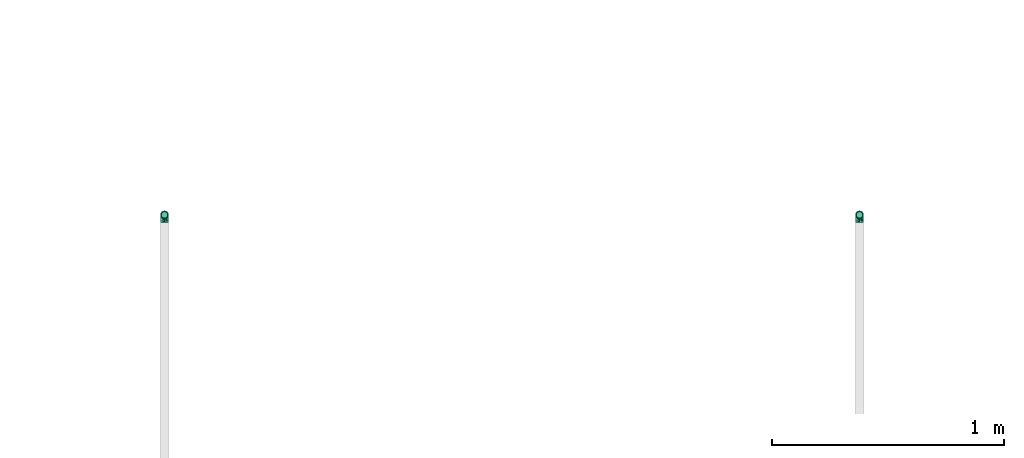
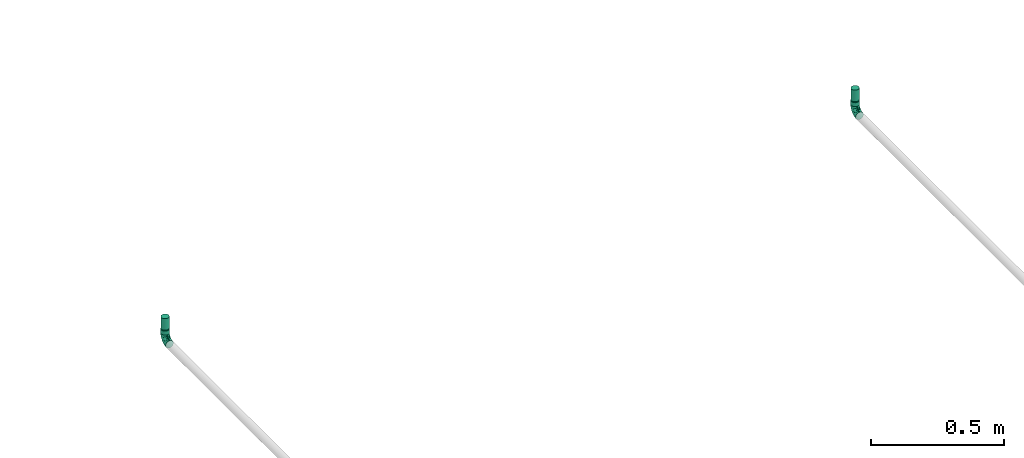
# One storey, part 33 of 45: 4 flow fittings, 2 flow segments, 2 flow terminals.
"""IFC2X3 building model written with IfcOpenShell, lengths in millimetres."""

from ifc_helpers import new_model, entity, si_unit, converted_unit, derived_unit, direction, frame, origin_with_axes, origin_2d_with_axis, place, context, subcontext, project, spatial, hollow_circle, extrude, open_shell, surface_model, source, transform, mapped, type_object, element, save


model = new_model("IFC2X3")

# Units and contexts
model_context = context("Model", 3, precision=0.01, world=frame((0.0, 4.29681676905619e-09, 0.0)), true_north=direction((4.01073788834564e-13, 1.0)))
plan_context = context("Plan", 3, precision=0.01, world=frame((0.0, 4.29681676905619e-09, 0.0)), true_north=direction((4.01073788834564e-13, 1.0)))
body_context = subcontext(model_context, "Body", "Model", "MODEL_VIEW")
ifc_project = project(units=[converted_unit("PLANEANGLEUNIT", "DEGREE", entity("IfcPositiveLengthMeasure", 0.0174532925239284), si_unit("PLANEANGLEUNIT", "RADIAN"), dimensions=[0, 0, 0, 0, 0, 0, 0]), si_unit("AREAUNIT", "SQUARE_METRE"), si_unit("LENGTHUNIT", "METRE", prefix="MILLI"), si_unit("MASSUNIT", "GRAM", prefix="KILO"), si_unit("POWERUNIT", "WATT"), si_unit("PRESSUREUNIT", "PASCAL", prefix="KILO"), si_unit("FORCEUNIT", "NEWTON", prefix="KILO"), si_unit("ELECTRICVOLTAGEUNIT", "VOLT"), si_unit("ELECTRICCURRENTUNIT", "AMPERE"), si_unit("THERMODYNAMICTEMPERATUREUNIT", "DEGREE_CELSIUS"), si_unit("TIMEUNIT", "SECOND"), si_unit("VOLUMEUNIT", "CUBIC_METRE"), derived_unit("LINEARVELOCITYUNIT", [(si_unit("LENGTHUNIT", "METRE"), 1), (si_unit("TIMEUNIT", "SECOND"), -1)]), derived_unit("VOLUMETRICFLOWRATEUNIT", [(si_unit("VOLUMEUNIT", "CUBIC_METRE"), 1), (si_unit("TIMEUNIT", "SECOND"), -1)]), derived_unit("THERMALTRANSMITTANCEUNIT", [(si_unit("POWERUNIT", "WATT"), 1), (si_unit("THERMODYNAMICTEMPERATUREUNIT", "KELVIN"), -1), (si_unit("AREAUNIT", "SQUARE_METRE"), -1)]), derived_unit("SOUNDPRESSUREUNIT", [(si_unit("PRESSUREUNIT", "PASCAL"), 1)])], contexts=[model_context, plan_context])

# Site, building, storey
site_placement = place(None, frame((0.0, -4.29681676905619e-09, 0.0), z_axis=(0.0, 0.0, 1.0), x_axis=(1.0, 0.0, 0.0)))
site = spatial("IfcSite", under=ifc_project, at=site_placement, CompositionType="ELEMENT")
building_placement = place(site_placement, frame((0.0, 4.29681676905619e-09, 0.0), z_axis=(0.0, 0.0, 1.0), x_axis=(1.0, 0.0, 0.0)))
building = spatial("IfcBuilding", under=site, at=building_placement, Name="mc-building", CompositionType="ELEMENT")
storey_placement = place(building_placement, frame((0.0, 0.0, 210200.0), z_axis=(0.0, 0.0, 1.0), x_axis=(1.0, 0.0, 0.0)))
storey = spatial("IfcBuildingStorey", under=building, at=storey_placement, Name="Nivå F - 0,7 m", CompositionType="ELEMENT", Elevation=210200.0)

# Flow fittings
pipe_fitting_type_1 = type_object("IfcPipeFittingType", Name="magi_pipe_fe_elbow_short_001", PredefinedType="BEND")
shared_shape_1 = source(origin_with_axes(), body_context, "Body", "SurfaceModel", [
    surface_model("IfcShellBasedSurfaceModel", [(-33.8, -11.9501, -11.9501), (-33.8, -14.63583, -8.45), (-33.8, -8.45, -14.63583), (-33.8, 0.0, -16.9), (-33.8, -4.37404, -16.32415), (-33.8, -16.32415, -4.37404), (-33.8, -16.9, 0.0), (-33.8, 11.9501, 11.9501), (-33.8, 14.63583, 8.45), (-33.8, 8.45, 14.63583), (-33.8, -11.9501, 11.9501), (-33.8, -8.45, 14.63583), (-33.8, -14.63583, 8.45), (-33.8, -16.32415, 4.37404), (-33.8, -4.37404, 16.32415), (-33.8, 0.0, 16.9), (-33.8, 16.9, 0.0), (-33.8, 16.32415, -4.37404), (-33.8, 16.32415, 4.37404), (-33.8, 4.37404, -16.32415), (-33.8, 8.45, -14.63583), (-33.8, 14.63583, -8.45), (-33.8, 11.9501, -11.9501), (-33.8, 4.37404, 16.32415), (-4.37404, 33.8, -16.32415), (16.9, 33.8, 0.0), (0.0, 33.8, -16.9), (-16.32415, 33.8, -4.37404), (-8.45, 33.8, -14.63583), (-14.63583, 33.8, -8.45), (-11.9501, 33.8, -11.9501), (16.32415, 33.8, 4.37404), (8.45, 33.8, -14.63583), (14.63583, 33.8, -8.45), (11.9501, 33.8, -11.9501), (4.37404, 33.8, -16.32415), (16.32415, 33.8, -4.37404), (-16.32415, 33.8, 4.37404), (-4.37404, 33.8, 16.32415), (-14.63583, 33.8, 8.45), (-8.45, 33.8, 14.63583), (-11.9501, 33.8, 11.9501), (14.63583, 33.8, 8.45), (8.45, 33.8, 14.63583), (11.9501, 33.8, 11.9501), (0.0, 33.8, 16.9), (4.37404, 33.8, 16.32415), (-16.9, 33.8, 0.0), (-24.79389, -13.12945, 9.48721), (-22.19287, -9.75018, 12.59315), (-24.09897, -14.97035, 0.0), (-14.93934, -10.76256, 8.5297), (-22.46095, -14.75051, 5.27077), (14.75051, 22.46094, 5.27077), (11.9251, 13.23888, 4.33236), (13.04069, 14.39795, 0.0), (7.71387, 13.68847, 11.55891), (9.75018, 22.19287, 12.59315), (4.10169, 13.0571, 14.04018), (-24.84007, -6.39063, 15.2048), (-25.81779, -2.23879, 16.61097), (-23.66549, 2.59054, 16.87119), (-26.50418, 14.06512, 11.08152), (-24.21253, 17.66365, 7.72657), (-29.58514, 15.86957, 7.00283), (-6.17382, -7.5455, 0.0), (-13.23888, -11.9251, 4.33236), (-14.39795, -13.04069, 0.0), (-17.81434, 18.87373, 11.97104), (-6.30846, 29.15138, 15.82987), (-2.31622, 25.28002, 16.85849), (-29.23923, 10.23435, 13.77053), (-1.45439, -2.85688, 7.61475), (-0.28326, 0.34872, 10.09509), (-5.74484, -4.04709, 10.4122), (-4.41137, 11.31918, 16.59407), (-8.39727, 3.10034, 15.7812), (-1.72649, 9.1306, 15.53089), (-17.39909, 24.75344, 7.64977), (-26.19233, 20.0512, 0.0), (-28.14518, 17.29657, 4.25857), (-26.05147, 6.6281, 15.96447), (-5.87354, 16.61944, 16.86968), (-12.51807, 12.51807, 16.48937), (-10.06312, 7.38516, 16.81295), (-3.01882, 3.01882, 13.81718), (-13.0571, -4.10169, 14.04018), (-16.82553, -0.15166, 16.38038), (10.76256, 14.93934, 8.5297), (13.12945, 24.79389, 9.48721), (6.39063, 24.84007, 15.2048), (2.23879, 25.81779, 16.61097), (-13.68847, -7.71387, 11.55891), (14.97035, 24.09897, 0.0), (-7.30894, 22.89991, 16.09489), (-10.67958, 26.17414, 14.008), (-12.78295, 18.26924, 15.06066), (-13.88562, 22.45231, 12.93244), (-18.04944, 15.16501, 14.04434), (-23.11658, 20.08178, 4.02986), (-21.84989, 21.84989, 0.0), (-18.55817, 25.48277, 3.93065), (-13.95142, 26.94732, 11.03289), (-18.57098, 7.23906, 16.59756), (-16.58335, 4.14122, 16.89279), (-17.96666, 11.46709, 15.63151), (-9.84453, 17.54304, 16.18938), (0.15166, 16.82553, 16.38038), (-23.27207, 11.47201, 14.23154), (3.84842, 5.86994, 10.70473), (-8.0212, -7.54413, 7.93275), (1.00345, -2.19508, 4.57414), (5.13203, 3.01004, 5.90201), (5.24161, 1.7543, 2.53265), (8.70457, 7.04947, 3.99182), (-20.0512, 26.19233, 0.0), (8.4852, 8.76699, 7.09296), (-4.55488, -6.72064, 4.90681), (2.05031, -2.05031, 0.0), (7.5455, 6.17382, 0.0), (-26.75399, 2.1369, -16.845), (-14.61995, 24.73803, -11.27736), (-28.45274, -13.45335, -9.81895), (-26.00469, 6.63555, -15.96645), (-23.06726, 20.04573, -4.26202), (-13.80647, -4.26506, -14.17873), (-14.67501, -0.21081, -16.07388), (-6.7902, -0.2828, -13.8478), (-24.53586, 11.08096, -14.13417), (-26.72048, 14.00837, -11.05776), (10.0967, 24.44989, -12.75976), (5.83237, 21.40218, -15.03047), (6.66249, 28.54238, -15.38093), (-20.38182, 15.48705, -12.74596), (12.53268, 21.23441, -9.15363), (12.54494, 15.67504, -5.54878), (9.7522, 12.89279, -8.66343), (-15.65186, 19.64213, -13.01327), (-12.03528, 20.66498, -14.67665), (-15.61907, 15.61906, -14.83879), (-25.56551, -15.26206, 0.0), (-24.65452, -15.12934, -5.50955), (13.45335, 28.45274, -9.81895), (15.12934, 24.65452, -5.50955), (-7.35442, -8.31014, -5.65563), (-15.67504, -12.54494, -5.54878), (-24.44989, -10.0967, -12.75976), (0.16522, 0.41303, -9.71728), (-5.70658, -5.33066, -8.89288), (-5.13869, -2.37198, -11.53565), (-21.23441, -12.53268, -9.15363), (0.71146, 7.93863, -14.09382), (0.21081, 14.67501, -16.07388), (3.49291, 14.42772, -14.76381), (-24.89911, -2.13088, -16.591), (-28.54238, -6.66249, -15.38093), (-18.44386, -7.71663, -13.26957), (2.13088, 24.89911, -16.591), (-28.64342, 17.44413, -2.89318), (1.70017, -1.28722, -5.09504), (-16.57067, 26.81947, -7.36596), (-17.69055, 27.4263, -3.76405), (-12.89279, -9.7522, -8.66343), (-5.96611, 5.96611, -15.95814), (-20.53709, 20.09345, -8.28985), (-2.1369, 26.75399, -16.845), (-6.89872, 24.58781, -16.02578), (-10.60739, 26.53157, -13.98044), (-21.40218, -5.83237, -15.03047), (2.93192, 5.89627, -11.55917), (6.89393, 12.61842, -11.82233), (5.58056, 5.95325, -8.79455), (-3.99512, 18.61798, -16.89635), (8.31014, 7.35442, -5.65563), (-9.1383, 9.86148, -16.89041), (-9.99983, 16.02119, -16.39699), (-16.68576, 9.78031, -16.34199), (-27.01915, 16.61158, -7.12979), (15.26206, 25.56551, 0.0), (-18.61798, 3.99512, -16.89635), (-19.37495, 27.82495, 0.0), (-12.61842, -6.89393, -11.82233), (-18.84705, 19.14018, -10.96545)], [open_shell([[[0, 1, 2]], [[3, 4, 2]], [[5, 6, 1]], [[7, 8, 9]], [[10, 11, 12]], [[13, 12, 11]], [[14, 15, 11]], [[16, 17, 18]], [[3, 6, 19]], [[20, 19, 17]], [[20, 17, 21]], [[22, 20, 21]], [[17, 19, 6]], [[2, 1, 6]], [[2, 6, 3]], [[6, 18, 17]], [[23, 18, 6]], [[8, 18, 23]], [[8, 23, 9]], [[13, 23, 6]], [[23, 13, 11]], [[11, 15, 23]], [[24, 25, 26]], [[27, 24, 28]], [[29, 27, 28]], [[29, 28, 30]], [[31, 25, 24]], [[32, 33, 34]], [[32, 35, 26]], [[33, 25, 36]], [[33, 32, 26]], [[25, 33, 26]], [[24, 27, 37]], [[31, 24, 37]], [[38, 37, 39]], [[40, 38, 39]], [[40, 39, 41]], [[31, 37, 38]], [[42, 43, 44]], [[43, 42, 31]], [[43, 45, 46]], [[43, 31, 38]], [[38, 45, 43]], [[37, 27, 47]], [[10, 48, 49]], [[13, 6, 50]], [[51, 48, 52]], [[53, 54, 55]], [[48, 10, 12]], [[13, 52, 12]], [[56, 57, 58]], [[49, 11, 10]], [[49, 59, 11]], [[15, 60, 61]], [[62, 63, 64]], [[65, 66, 67]], [[57, 44, 43]], [[62, 68, 63]], [[38, 69, 70]], [[9, 71, 7]], [[14, 60, 15]], [[72, 73, 74]], [[75, 76, 77]], [[7, 62, 8]], [[39, 37, 78]], [[79, 16, 80]], [[64, 18, 8]], [[15, 61, 23]], [[23, 81, 9]], [[82, 83, 84]], [[74, 85, 86]], [[59, 86, 87]], [[88, 89, 57]], [[90, 43, 46]], [[42, 53, 31]], [[46, 45, 91]], [[54, 53, 88]], [[42, 89, 53]], [[92, 86, 49]], [[89, 42, 44]], [[11, 59, 14]], [[53, 55, 93]], [[93, 31, 53]], [[66, 52, 67]], [[94, 82, 70]], [[95, 96, 94]], [[97, 98, 96]], [[79, 99, 100]], [[40, 41, 95]], [[101, 100, 99]], [[68, 78, 63]], [[38, 40, 69]], [[16, 18, 80]], [[95, 94, 69]], [[78, 101, 99]], [[41, 102, 95]], [[70, 45, 38]], [[97, 95, 102]], [[13, 50, 52]], [[90, 57, 43]], [[57, 90, 58]], [[81, 23, 61]], [[103, 104, 84]], [[105, 81, 103]], [[41, 39, 102]], [[106, 96, 83]], [[94, 106, 82]], [[91, 70, 107]], [[71, 62, 7]], [[62, 108, 98]], [[86, 59, 49]], [[67, 52, 50]], [[60, 59, 87]], [[92, 49, 51]], [[86, 85, 76]], [[91, 90, 46]], [[25, 31, 93]], [[107, 77, 58]], [[107, 58, 90]], [[58, 85, 109]], [[110, 74, 92]], [[72, 74, 110]], [[66, 51, 52]], [[72, 111, 112]], [[113, 114, 112]], [[56, 88, 57]], [[52, 48, 12]], [[49, 48, 51]], [[57, 89, 44]], [[53, 89, 88]], [[103, 81, 61]], [[71, 81, 108]], [[18, 64, 80]], [[63, 78, 99]], [[47, 115, 101]], [[101, 115, 100]], [[39, 78, 102]], [[68, 102, 78]], [[97, 96, 95]], [[105, 98, 108]], [[103, 84, 83]], [[107, 70, 82]], [[76, 84, 87]], [[82, 84, 75]], [[70, 91, 45]], [[90, 91, 107]], [[59, 60, 14]], [[61, 60, 87]], [[73, 85, 74]], [[109, 112, 116]], [[103, 61, 104]], [[105, 103, 83]], [[96, 105, 83]], [[81, 105, 108]], [[96, 98, 105]], [[62, 98, 68]], [[61, 87, 104]], [[87, 84, 104]], [[86, 76, 87]], [[77, 76, 85]], [[58, 77, 85]], [[75, 77, 107]], [[82, 75, 107]], [[76, 75, 84]], [[81, 71, 9]], [[62, 71, 108]], [[95, 69, 40]], [[70, 69, 94]], [[62, 64, 8]], [[80, 63, 99]], [[63, 80, 64]], [[80, 99, 79]], [[66, 65, 117]], [[110, 66, 117]], [[112, 114, 116]], [[118, 117, 65]], [[110, 92, 51]], [[112, 111, 113]], [[119, 55, 54]], [[74, 86, 92]], [[58, 109, 56]], [[116, 56, 109]], [[66, 110, 51]], [[72, 110, 117]], [[111, 72, 117]], [[73, 112, 109]], [[117, 118, 111]], [[113, 111, 118]], [[118, 119, 113]], [[114, 119, 54]], [[119, 114, 113]], [[116, 54, 88]], [[54, 116, 114]], [[116, 88, 56]], [[112, 73, 72]], [[85, 73, 109]], [[78, 37, 101]], [[47, 101, 37]], [[102, 68, 97]], [[97, 68, 98]], [[82, 106, 83]], [[94, 96, 106]], [[19, 120, 3]], [[29, 30, 121]], [[0, 122, 1]], [[20, 123, 19]], [[100, 124, 79]], [[125, 126, 127]], [[128, 22, 129]], [[130, 131, 132]], [[128, 129, 133]], [[134, 135, 136]], [[137, 138, 139]], [[128, 20, 22]], [[67, 140, 141]], [[134, 142, 143]], [[141, 5, 1]], [[144, 65, 145]], [[146, 0, 2]], [[147, 148, 149]], [[145, 141, 150]], [[151, 152, 153]], [[154, 4, 3]], [[2, 155, 146]], [[150, 146, 156]], [[155, 2, 4]], [[143, 135, 134]], [[35, 157, 26]], [[16, 79, 158]], [[148, 159, 144]], [[160, 161, 27]], [[145, 162, 144]], [[163, 152, 151]], [[27, 29, 160]], [[121, 164, 160]], [[32, 34, 130]], [[26, 165, 24]], [[24, 165, 166]], [[142, 34, 33]], [[30, 28, 167]], [[124, 161, 164]], [[157, 35, 132]], [[155, 154, 168]], [[123, 20, 128]], [[169, 170, 171]], [[172, 157, 152]], [[24, 166, 28]], [[132, 35, 32]], [[142, 130, 34]], [[168, 154, 126]], [[136, 135, 173]], [[133, 137, 139]], [[22, 21, 129]], [[170, 131, 130]], [[33, 36, 143]], [[172, 174, 175]], [[176, 123, 128]], [[158, 177, 17]], [[135, 55, 119]], [[167, 28, 166]], [[175, 166, 172]], [[137, 167, 138]], [[122, 141, 1]], [[140, 6, 5]], [[36, 25, 178]], [[170, 130, 134]], [[152, 157, 131]], [[165, 157, 172]], [[153, 170, 151]], [[152, 163, 174]], [[168, 125, 156]], [[122, 146, 150]], [[120, 154, 3]], [[179, 174, 126]], [[179, 126, 154]], [[126, 163, 127]], [[162, 145, 150]], [[140, 5, 141]], [[36, 178, 143]], [[55, 143, 178]], [[177, 129, 21]], [[128, 133, 139]], [[176, 128, 139]], [[120, 123, 179]], [[121, 160, 29]], [[161, 100, 180]], [[166, 175, 138]], [[121, 30, 167]], [[161, 47, 27]], [[79, 124, 158]], [[124, 164, 177]], [[161, 124, 100]], [[136, 171, 170]], [[127, 163, 151]], [[147, 171, 159]], [[148, 144, 162]], [[127, 151, 169]], [[127, 181, 125]], [[129, 177, 164]], [[21, 17, 177]], [[159, 65, 144]], [[67, 141, 145]], [[143, 55, 135]], [[135, 119, 173]], [[123, 120, 19]], [[154, 120, 179]], [[157, 165, 26]], [[166, 165, 172]], [[172, 152, 174]], [[176, 139, 175]], [[126, 174, 163]], [[176, 174, 179]], [[174, 176, 175]], [[123, 176, 179]], [[150, 181, 162]], [[127, 149, 181]], [[181, 148, 162]], [[159, 148, 147]], [[171, 136, 173]], [[170, 134, 136]], [[159, 171, 173]], [[171, 147, 169]], [[169, 147, 149]], [[151, 170, 169]], [[164, 182, 129]], [[182, 121, 137]], [[181, 149, 148]], [[169, 149, 127]], [[182, 137, 133]], [[167, 137, 121]], [[166, 138, 167]], [[175, 139, 138]], [[129, 182, 133]], [[121, 182, 164]], [[161, 160, 164]], [[47, 161, 180]], [[177, 158, 124]], [[16, 158, 17]], [[130, 132, 32]], [[157, 132, 131]], [[143, 142, 33]], [[130, 142, 134]], [[154, 155, 4]], [[146, 155, 168]], [[146, 122, 0]], [[141, 122, 150]], [[152, 131, 153]], [[159, 119, 118]], [[67, 145, 65]], [[170, 153, 131]], [[119, 159, 173]], [[159, 118, 65]], [[156, 125, 181]], [[126, 125, 168]], [[150, 156, 181]], [[168, 156, 146]]])]),
])
for number, where, z_axis, x_axis, name in (
    (1, (341657.5, 466176.80156, 2810.44542), (1.0, 0.0, 0.0), (0.0, 1.0, 0.0), "magi_pipe_fe_elbow_short_001"),
    (2, (338657.5, 466176.80156, 2810.44542), (1.0, 0.0, 0.0), (0.0, 1.0, 0.0), "magi_pipe_fe_elbow_short_001"),
):
    element("IfcFlowFitting", number, at=place(storey_placement, frame(where, z_axis=z_axis, x_axis=x_axis)), inside=storey, type_object=pipe_fitting_type_1, Name=name, context=body_context, shape_type="MappedRepresentation", body=[
        mapped(shared_shape_1, transform((0.0, 0.0, 0.0), scale=1.0)),
    ])
pipe_fitting_type_2 = type_object("IfcPipeFittingType", Name="magi_pipe_fe_reducer_centric_short_001", PredefinedType="TRANSITION")
shared_shape_2 = source(origin_with_axes(), body_context, "Body", "SurfaceModel", [
    surface_model("IfcShellBasedSurfaceModel", [(9.0, 4.37404, -16.32415), (9.0, 8.45, -14.63583), (9.0, 11.9501, -11.9501), (9.0, 0.0, -16.9), (9.0, 16.32415, -4.37404), (9.0, 16.32415, 4.37404), (9.0, 14.63583, -8.45), (9.0, -8.45, -14.63583), (9.0, -4.37404, -16.32415), (9.0, -11.9501, -11.9501), (9.0, -16.32415, -4.37404), (9.0, -14.63583, -8.45), (9.0, -16.32415, 4.37404), (9.0, 16.9, 0.0), (9.0, 14.63583, 8.45), (9.0, 11.9501, 11.9501), (9.0, 4.37404, 16.32415), (9.0, 0.0, 16.9), (9.0, 8.45, 14.63583), (9.0, -14.63583, 8.45), (9.0, -16.9, 0.0), (9.0, -8.45, 14.63583), (9.0, -11.9501, 11.9501), (9.0, -4.37404, 16.32415), (7.0, 4.37404, 16.32415), (7.0, -14.63583, 8.45), (7.0, 0.0, 16.9), (7.0, 16.32415, 4.37404), (7.0, 8.45, 14.63583), (7.0, 11.9501, 11.9501), (7.0, 14.63583, 8.45), (7.0, -8.45, 14.63583), (7.0, -11.9501, 11.9501), (7.0, -4.37404, 16.32415), (7.0, -16.32415, 4.37404), (7.0, -16.32415, -4.37404), (7.0, -16.9, 0.0), (7.0, -8.45, -14.63583), (7.0, 16.32415, -4.37404), (7.0, 11.9501, -11.9501), (7.0, 14.63583, -8.45), (7.0, 8.45, -14.63583), (7.0, 4.37404, -16.32415), (7.0, 0.0, -16.9), (7.0, -11.9501, -11.9501), (7.0, -14.63583, -8.45), (7.0, -4.37404, -16.32415), (7.0, 16.9, 0.0), (-2.0, -9.47523, 9.47523), (-2.0, 0.0, 13.4), (-2.0, 3.46818, 12.94341), (-2.0, 6.7, 11.60474), (-2.0, 9.47523, 9.47523), (-2.0, 11.60474, 6.7), (-2.0, 12.94341, 3.46818), (-2.0, -3.46818, 12.94341), (-2.0, -6.7, 11.60474), (-2.0, -12.94341, 3.46818), (-2.0, -11.60474, 6.7), (-2.0, -6.7, -11.60474), (-2.0, -12.94341, -3.46818), (-2.0, -13.4, 0.0), (-2.0, 12.94341, -3.46818), (-2.0, 6.7, -11.60474), (-2.0, 9.47523, -9.47523), (-2.0, 11.60474, -6.7), (-2.0, 3.46818, -12.94341), (-2.0, 0.0, -13.4), (-2.0, -9.47523, -9.47523), (-2.0, -11.60474, -6.7), (-2.0, -3.46818, -12.94341), (-2.0, 13.4, 0.0), (0.0, 12.94341, -3.46818), (0.0, 3.46818, -12.94341), (0.0, 6.7, -11.60474), (0.0, 11.60474, -6.7), (0.0, 9.47523, -9.47523), (0.0, -6.7, -11.60474), (0.0, -12.94341, 3.46818), (0.0, -3.46818, -12.94341), (0.0, 0.0, -13.4), (0.0, -9.47523, -9.47523), (0.0, -12.94341, -3.46818), (0.0, -11.60474, -6.7), (0.0, 13.4, 0.0), (0.0, 12.94341, 3.46818), (0.0, 11.60474, 6.7), (0.0, 9.47523, 9.47523), (0.0, 0.0, 13.4), (0.0, 6.7, 11.60474), (0.0, 3.46818, 12.94341), (0.0, -9.47523, 9.47523), (0.0, -11.60474, 6.7), (0.0, -13.4, 0.0), (0.0, -3.46818, 12.94341), (0.0, -6.7, 11.60474), (7.0, -14.51228, -5.76448), (0.0, -11.43761, -4.73762), (7.0, -13.23119, -8.85729), (0.0, -10.45642, -7.10642), (0.0, -12.41881, -2.36881), (7.0, -15.70614, -2.88224), (0.0, -2.36881, -12.41881), (7.0, -5.97505, -14.42505), (0.0, -7.10642, -10.45642), (0.0, -4.73762, -11.43761), (7.0, -2.98753, -15.66253), (7.0, -8.96258, -13.18758), (7.0, 2.98753, -15.66253), (0.0, 2.36881, -12.41881), (0.0, 12.45339, -2.28533), (7.0, 13.18758, -8.96258), (0.0, 10.45642, -7.10642), (7.0, 14.42505, -5.97505), (0.0, 11.43761, -4.73762), (0.0, 7.10642, -10.45642), (7.0, 8.96258, -13.18758), (7.0, 15.66253, -2.98753), (0.0, 4.73762, -11.43761), (7.0, 5.97505, -14.42505), (7.0, 14.51228, 5.76448), (0.0, 11.43761, 4.73762), (7.0, 13.23119, 8.85729), (0.0, 10.45642, 7.10642), (0.0, 12.41881, 2.36881), (7.0, 15.70614, 2.88224), (0.0, 2.36881, 12.41881), (7.0, 5.97505, 14.42505), (0.0, 7.10642, 10.45642), (0.0, 4.73762, 11.43761), (7.0, 2.98753, 15.66253), (7.0, 8.96258, 13.18758), (7.0, -2.98753, 15.66253), (0.0, -2.36881, 12.41881), (0.0, -12.45339, 2.28533), (7.0, -13.18758, 8.96258), (0.0, -10.45642, 7.10642), (7.0, -14.42505, 5.97505), (0.0, -11.43761, 4.73762), (0.0, -7.10642, 10.45642), (7.0, -8.96258, 13.18758), (7.0, -15.66253, 2.98753), (0.0, -4.73762, 11.43761), (7.0, -5.97505, 14.42505)], [open_shell([[[0, 1, 2]], [[3, 0, 2]], [[2, 4, 5]], [[4, 2, 6]], [[2, 5, 7]], [[3, 7, 8]], [[3, 2, 7]], [[9, 10, 11]], [[10, 9, 7]], [[7, 12, 10]], [[5, 4, 13]], [[5, 14, 15]], [[5, 15, 16]], [[16, 17, 5]], [[16, 15, 18]], [[5, 17, 19]], [[5, 19, 12]], [[20, 10, 12]], [[19, 21, 22]], [[19, 17, 21]], [[21, 17, 23]], [[12, 7, 5]], [[24, 25, 26]], [[27, 24, 28]], [[29, 30, 27]], [[29, 27, 28]], [[25, 24, 27]], [[31, 25, 32]], [[25, 31, 33]], [[26, 25, 33]], [[27, 34, 25]], [[34, 35, 36]], [[34, 27, 37]], [[27, 38, 39]], [[39, 38, 40]], [[39, 41, 42]], [[37, 27, 39]], [[42, 43, 39]], [[35, 44, 45]], [[44, 35, 37]], [[37, 43, 46]], [[35, 34, 37]], [[39, 43, 37]], [[38, 27, 47]], [[35, 10, 36]], [[45, 11, 35]], [[7, 44, 37]], [[45, 44, 9]], [[8, 37, 46]], [[35, 11, 10]], [[10, 20, 36]], [[8, 7, 37]], [[9, 44, 7]], [[9, 11, 45]], [[3, 8, 46]], [[46, 43, 3]], [[42, 0, 43]], [[41, 1, 42]], [[6, 39, 40]], [[41, 39, 2]], [[4, 40, 38]], [[41, 2, 1]], [[1, 0, 42]], [[13, 4, 38]], [[6, 40, 4]], [[6, 2, 39]], [[47, 13, 38]], [[43, 0, 3]], [[27, 5, 47]], [[30, 14, 27]], [[18, 29, 28]], [[30, 29, 15]], [[16, 28, 24]], [[27, 14, 5]], [[5, 13, 47]], [[16, 18, 28]], [[15, 29, 18]], [[15, 14, 30]], [[17, 16, 24]], [[24, 26, 17]], [[33, 23, 26]], [[31, 21, 33]], [[19, 32, 25]], [[31, 32, 22]], [[12, 25, 34]], [[31, 22, 21]], [[21, 23, 33]], [[20, 12, 34]], [[19, 25, 12]], [[19, 22, 32]], [[36, 20, 34]], [[26, 23, 17]], [[48, 49, 50]], [[51, 48, 50]], [[52, 53, 54]], [[52, 54, 51]], [[48, 51, 54]], [[55, 48, 56]], [[55, 49, 48]], [[48, 57, 58]], [[48, 59, 57]], [[57, 60, 61]], [[62, 48, 54]], [[48, 62, 63]], [[64, 62, 65]], [[66, 48, 63]], [[63, 62, 64]], [[66, 67, 48]], [[60, 68, 69]], [[60, 57, 68]], [[70, 59, 48]], [[57, 59, 68]], [[70, 48, 67]], [[71, 62, 54]], [[72, 73, 74]], [[75, 74, 76]], [[77, 73, 78]], [[72, 74, 75]], [[73, 72, 78]], [[73, 79, 80]], [[73, 77, 79]], [[81, 82, 83]], [[78, 82, 81]], [[81, 77, 78]], [[72, 84, 78]], [[85, 86, 87]], [[85, 87, 88]], [[89, 90, 88]], [[89, 88, 87]], [[85, 88, 91]], [[78, 91, 92]], [[93, 82, 78]], [[91, 94, 95]], [[91, 78, 85]], [[94, 91, 88]], [[78, 84, 85]], [[60, 82, 61]], [[69, 83, 60]], [[77, 68, 59]], [[69, 68, 81]], [[79, 59, 70]], [[60, 83, 82]], [[82, 93, 61]], [[79, 77, 59]], [[81, 68, 77]], [[81, 83, 69]], [[80, 79, 70]], [[70, 67, 80]], [[66, 73, 67]], [[63, 74, 66]], [[75, 64, 65]], [[63, 64, 76]], [[72, 65, 62]], [[63, 76, 74]], [[74, 73, 66]], [[84, 72, 62]], [[75, 65, 72]], [[75, 76, 64]], [[71, 84, 62]], [[67, 73, 80]], [[54, 85, 71]], [[53, 86, 54]], [[89, 52, 51]], [[53, 52, 87]], [[90, 51, 50]], [[54, 86, 85]], [[85, 84, 71]], [[90, 89, 51]], [[87, 52, 89]], [[87, 86, 53]], [[88, 90, 50]], [[50, 49, 88]], [[55, 94, 49]], [[56, 95, 55]], [[92, 48, 58]], [[56, 48, 91]], [[78, 58, 57]], [[56, 91, 95]], [[95, 94, 55]], [[93, 78, 57]], [[92, 58, 78]], [[92, 91, 48]], [[61, 93, 57]], [[49, 94, 88]], [[36, 29, 26]], [[39, 47, 29]], [[26, 32, 36]], [[36, 44, 43]], [[43, 39, 36]], [[36, 39, 29]], [[81, 91, 88]], [[81, 93, 91]], [[88, 87, 84]], [[84, 76, 81]], [[80, 81, 76]], [[84, 81, 88]], [[96, 97, 98]], [[81, 44, 99]], [[100, 96, 101]], [[102, 80, 43]], [[103, 104, 105]], [[102, 43, 106]], [[107, 81, 104]], [[108, 80, 109]], [[110, 84, 47]], [[93, 101, 36]], [[108, 43, 80]], [[111, 76, 112]], [[113, 112, 114]], [[115, 39, 116]], [[110, 47, 117]], [[99, 98, 97]], [[117, 113, 114]], [[106, 103, 105]], [[118, 116, 119]], [[109, 118, 119]], [[96, 100, 97]], [[93, 100, 101]], [[99, 44, 98]], [[104, 103, 107]], [[107, 44, 81]], [[106, 105, 102]], [[112, 113, 111]], [[111, 39, 76]], [[117, 114, 110]], [[116, 118, 115]], [[115, 76, 39]], [[109, 119, 108]], [[120, 121, 122]], [[87, 29, 123]], [[124, 120, 125]], [[126, 88, 26]], [[127, 128, 129]], [[126, 26, 130]], [[131, 87, 128]], [[132, 88, 133]], [[134, 93, 36]], [[84, 125, 47]], [[132, 26, 88]], [[135, 91, 136]], [[137, 136, 138]], [[139, 32, 140]], [[134, 36, 141]], [[123, 122, 121]], [[141, 137, 138]], [[130, 127, 129]], [[142, 140, 143]], [[133, 142, 143]], [[120, 124, 121]], [[84, 124, 125]], [[123, 29, 122]], [[128, 127, 131]], [[131, 29, 87]], [[130, 129, 126]], [[136, 137, 135]], [[135, 32, 91]], [[141, 138, 134]], [[140, 142, 139]], [[139, 91, 32]], [[133, 143, 132]]])]),
])
for number, where, z_axis, x_axis, name in (
    (3, (341657.5, 466176.80156, 2869.04800000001), (1.0, 0.0, 0.0), (0.0, 0.0, -1.0), "magi_pipe_fe_reducer_centric_short_001"),
    (4, (338657.5, 466176.80156, 2869.04800000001), (1.0, 0.0, 0.0), (0.0, 0.0, -1.0), "magi_pipe_fe_reducer_centric_short_001"),
):
    element("IfcFlowFitting", number, at=place(storey_placement, frame(where, z_axis=z_axis, x_axis=x_axis)), inside=storey, type_object=pipe_fitting_type_2, Name=name, context=body_context, shape_type="MappedRepresentation", body=[
        mapped(shared_shape_2, transform((0.0, 0.0, 0.0), scale=1.0)),
    ])

# Flow segments
pipe_segment_type = type_object("IfcPipeSegmentType", Name="Stålrør normaltykke", PredefinedType="RIGIDSEGMENT")
shared_shape_3 = source(origin_with_axes(), body_context, "Body", "SweptSolid", [
    extrude(hollow_circle(Radius=16.9, WallThickness=2.0, at=origin_2d_with_axis()), frame((0.0, 0.0, 0.0), z_axis=(1.0, 0.0, 0.0), x_axis=(0.0, 1.0, 0.0)), (0.0, 0.0, 1.0), 17.8),
])
for number, where, z_axis, x_axis in (
    (5, (341657.5, 466176.80156, 2844.24541999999), (1.0, 0.0, 0.0), (0.0, 0.0, 1.0)),
    (6, (338657.5, 466176.80156, 2844.24541999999), (1.0, 0.0, 0.0), (0.0, 0.0, 1.0)),
):
    element("IfcFlowSegment", number, at=place(storey_placement, frame(where, z_axis=z_axis, x_axis=x_axis)), inside=storey, type_object=pipe_segment_type, Name="Stålrør normaltykke", context=body_context, shape_type="MappedRepresentation", body=[
        mapped(shared_shape_3, transform((0.0, 0.0, 0.0), scale=1.0)),
    ])

# Flow terminals
fire_suppression_terminal_type = type_object("IfcFireSuppressionTerminalType", Name="SP-15-K80-68DGR-STD", PredefinedType="NOTDEFINED")
shared_shape_4 = source(origin_with_axes(), body_context, "Body", "SurfaceModel", [
    surface_model("IfcShellBasedSurfaceModel", [(4.1411, -15.45481, 53.0), (8.0, -13.85641, 53.0), (11.31371, -11.31371, 53.0), (-8.0, -13.85641, 53.0), (15.45481, -4.1411, 53.0), (16.0, 0.0, 53.0), (13.85641, -8.0, 53.0), (0.0, -16.0, 53.0), (-4.1411, -15.45481, 53.0), (-13.85641, -8.0, 53.0), (-11.31371, -11.31371, 53.0), (-15.45481, -4.1411, 53.0), (15.45481, 4.1411, 53.0), (13.85641, 8.0, 53.0), (11.31371, 11.31371, 53.0), (-4.1411, 15.45481, 53.0), (8.0, 13.85641, 53.0), (4.1411, 15.45481, 53.0), (0.0, 16.0, 53.0), (-13.85641, 8.0, 53.0), (-15.45481, 4.1411, 53.0), (-16.0, 0.0, 53.0), (-11.31371, 11.31371, 53.0), (-8.0, 13.85641, 53.0), (0.0, 16.0, 0.0), (4.1411, 15.45481, 0.0), (8.0, 13.85641, 0.0), (-4.1411, 15.45481, 0.0), (11.31371, 11.31371, 0.0), (13.85641, 8.0, 0.0), (15.45481, 4.1411, 0.0), (-15.45481, -4.1411, 0.0), (-11.31371, 11.31371, 0.0), (-8.0, 13.85641, 0.0), (-13.85641, 8.0, 0.0), (-15.45481, 4.1411, 0.0), (-16.0, 0.0, 0.0), (4.1411, -15.45481, 0.0), (16.0, 0.0, 0.0), (15.45481, -4.1411, 0.0), (13.85641, -8.0, 0.0), (11.31371, -11.31371, 0.0), (8.0, -13.85641, 0.0), (-8.0, -13.85641, 0.0), (-13.85641, -8.0, 0.0), (-11.31371, -11.31371, 0.0), (0.0, -16.0, 0.0), (-4.1411, -15.45481, 0.0)], [open_shell([[[0, 1, 2]], [[3, 0, 2]], [[4, 5, 2]], [[4, 2, 6]], [[3, 2, 5]], [[7, 3, 8]], [[7, 0, 3]], [[3, 9, 10]], [[9, 3, 11]], [[5, 11, 3]], [[5, 12, 11]], [[12, 13, 14]], [[15, 12, 14]], [[16, 17, 18]], [[14, 16, 15]], [[18, 15, 16]], [[11, 19, 20]], [[21, 11, 20]], [[22, 15, 23]], [[15, 22, 19]], [[19, 11, 15]], [[11, 12, 15]], [[24, 25, 26]], [[27, 24, 26]], [[28, 29, 30]], [[27, 26, 28]], [[27, 28, 31]], [[27, 32, 33]], [[32, 27, 34]], [[34, 31, 35]], [[31, 34, 27]], [[35, 31, 36]], [[28, 30, 31]], [[37, 38, 39]], [[37, 39, 40]], [[41, 42, 37]], [[41, 37, 40]], [[38, 37, 43]], [[44, 43, 45]], [[43, 44, 31]], [[43, 46, 47]], [[43, 31, 38]], [[37, 46, 43]], [[38, 31, 30]], [[11, 31, 44]], [[45, 9, 44]], [[3, 43, 47]], [[45, 43, 10]], [[8, 47, 46]], [[31, 21, 36]], [[31, 11, 21]], [[44, 9, 11]], [[45, 10, 9]], [[3, 10, 43]], [[47, 8, 3]], [[46, 7, 8]], [[0, 37, 42]], [[41, 1, 42]], [[6, 40, 39]], [[41, 40, 2]], [[4, 39, 38]], [[37, 0, 7]], [[42, 1, 0]], [[41, 2, 1]], [[40, 6, 2]], [[4, 6, 39]], [[38, 5, 4]], [[37, 7, 46]], [[12, 38, 30]], [[13, 30, 29]], [[16, 26, 25]], [[17, 25, 24]], [[30, 13, 12]], [[12, 5, 38]], [[28, 14, 13]], [[28, 26, 14]], [[14, 26, 16]], [[25, 17, 16]], [[28, 13, 29]], [[24, 18, 17]], [[15, 27, 33]], [[32, 23, 33]], [[19, 34, 35]], [[32, 34, 22]], [[20, 35, 36]], [[27, 15, 18]], [[33, 23, 15]], [[32, 22, 23]], [[34, 19, 22]], [[20, 19, 35]], [[36, 21, 20]], [[27, 18, 24]]])]),
])
for number, where, z_axis, x_axis in (
    (7, (341657.5, 466176.80156, 2866.0), (0.0, 0.0, 1.0), (1.0, 0.0, 0.0)),
    (8, (338657.5, 466176.80156, 2866.0), (0.0, 0.0, 1.0), (1.0, 0.0, 0.0)),
):
    element("IfcFlowTerminal", number, at=place(storey_placement, frame(where, z_axis=z_axis, x_axis=x_axis)), inside=storey, type_object=fire_suppression_terminal_type, Name="SP-15-K80-68DGR-STD", context=body_context, shape_type="MappedRepresentation", body=[
        mapped(shared_shape_4, transform((0.0, 0.0, 0.0), scale=1.0)),
    ])

save(model, "model.ifc")
